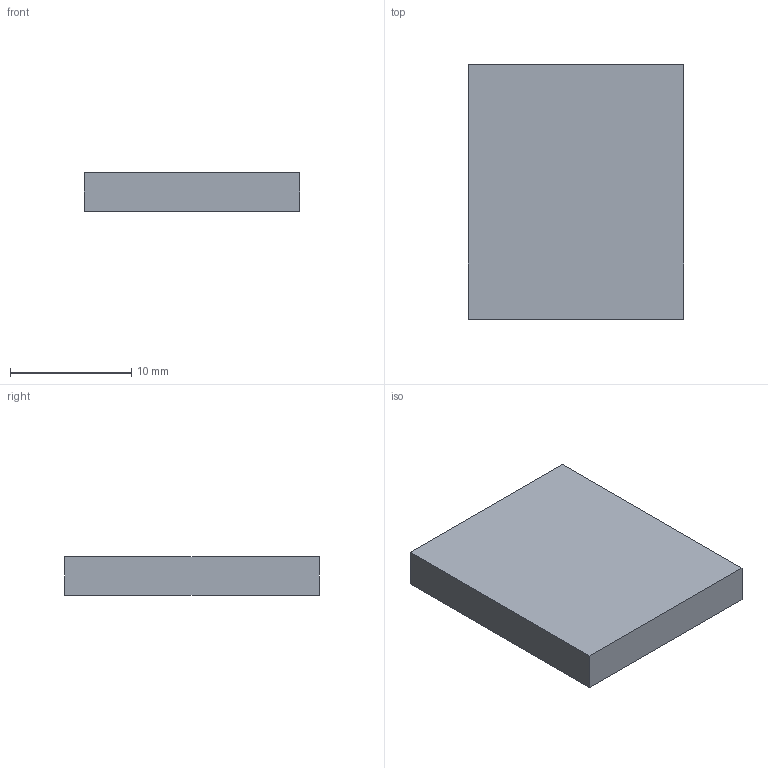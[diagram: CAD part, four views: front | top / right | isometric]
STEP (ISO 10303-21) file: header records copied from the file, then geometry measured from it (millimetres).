
FILE_DESCRIPTION(('Open CASCADE Model'),'2;1');
FILE_NAME('Open CASCADE Shape Model','2026-08-28T00:57:55',('Author'),( 'Open CASCADE'),'Open CASCADE STEP processor 7.8','Open CASCADE 7.8' ,'Unknown');
FILE_SCHEMA(('AUTOMOTIVE_DESIGN { 1 0 10303 214 1 1 1 1 }'));
Length unit declared in the file: millimetre
Products named in the file (1): Open CASCADE STEP translator 7.8 9
Bounding box: 17.8 x 21 x 3.2 mm (x, y, z)
Volume: 1196.2 mm3; surface area: 995.9 mm2
Topology: 1 solids, 1 shells, 6 faces, 12 edges, 8 vertices
Faces by surface type: plane 6
Entity records: 322 total; most frequent: CARTESIAN_POINT 51, DIRECTION 50, LINE 36, VECTOR 36, ORIENTED_EDGE 24, PCURVE 24, DEFINITIONAL_REPRESENTATION 24, EDGE_CURVE 12
